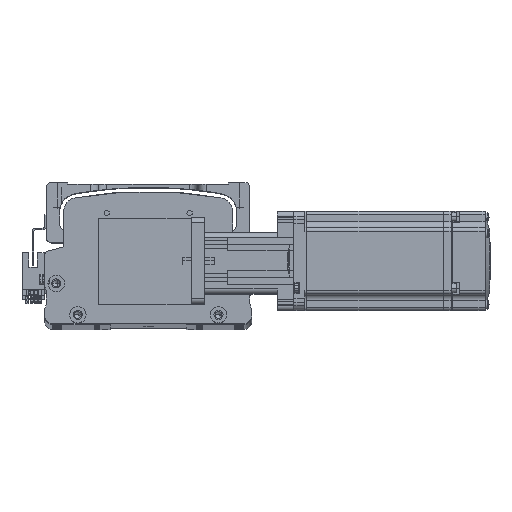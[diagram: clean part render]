
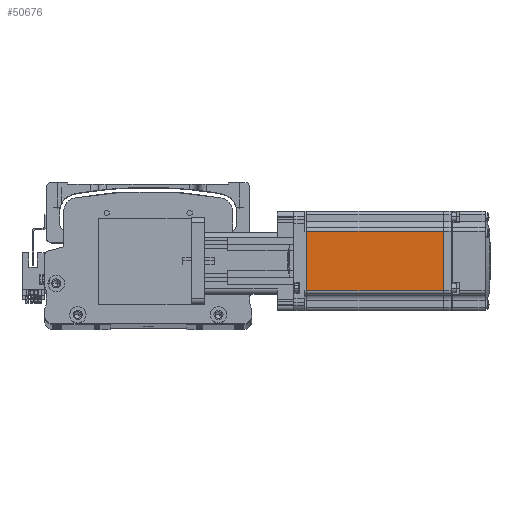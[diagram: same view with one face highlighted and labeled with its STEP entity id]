
A CAD part, top view. The second image highlights one B-rep face of the part: STEP entity #50676.
In plain terms, the highlighted planar face has unit normal (0, 0, 1) as drawn and (0, -1, 0) by its records, which use the part's own axes.
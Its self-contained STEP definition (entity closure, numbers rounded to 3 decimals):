
#1174 = LINE ( 'NONE', #43734, #25114 ) ;
#1272 = ORIENTED_EDGE ( 'NONE', *, *, #45522, .T. ) ;
#5736 = PLANE ( 'NONE',  #51374 ) ;
#8005 = VERTEX_POINT ( 'NONE', #14065 ) ;
#8956 = VECTOR ( 'NONE', #19528, 1000. ) ;
#11220 = CARTESIAN_POINT ( 'NONE',  ( -90.45, -30., 18. ) ) ;
#11306 = DIRECTION ( 'NONE',  ( 0., -1., 0. ) ) ;
#12507 = EDGE_CURVE ( 'NONE', #8005, #48100, #63149, .T. ) ;
#14065 = CARTESIAN_POINT ( 'NONE',  ( -7.75, -30., -18. ) ) ;
#17347 = CARTESIAN_POINT ( 'NONE',  ( -7.75, -30., 18. ) ) ;
#19528 = DIRECTION ( 'NONE',  ( -1., 0., 0. ) ) ;
#21738 = LINE ( 'NONE', #23532, #35368 ) ;
#23532 = CARTESIAN_POINT ( 'NONE',  ( -6.5, -30., 18. ) ) ;
#25114 = VECTOR ( 'NONE', #49075, 1000. ) ;
#26832 = EDGE_CURVE ( 'NONE', #52424, #8005, #1174, .T. ) ;
#34449 = ORIENTED_EDGE ( 'NONE', *, *, #26832, .F. ) ;
#35368 = VECTOR ( 'NONE', #64583, 1000. ) ;
#41682 = LINE ( 'NONE', #42379, #53685 ) ;
#41788 = CARTESIAN_POINT ( 'NONE',  ( -6.5, -30., -25. ) ) ;
#42189 = EDGE_CURVE ( 'NONE', #46408, #48100, #41682, .T. ) ;
#42379 = CARTESIAN_POINT ( 'NONE',  ( -90.45, -30., 0. ) ) ;
#43734 = CARTESIAN_POINT ( 'NONE',  ( -7.75, -30., 0. ) ) ;
#43809 = ORIENTED_EDGE ( 'NONE', *, *, #42189, .T. ) ;
#45522 = EDGE_CURVE ( 'NONE', #52424, #46408, #21738, .T. ) ;
#46408 = VERTEX_POINT ( 'NONE', #11220 ) ;
#46953 = DIRECTION ( 'NONE',  ( 0., 0., -1. ) ) ;
#47534 = DIRECTION ( 'NONE',  ( 0., 0., -1. ) ) ;
#48100 = VERTEX_POINT ( 'NONE', #61013 ) ;
#49023 = EDGE_LOOP ( 'NONE', ( #34449, #1272, #43809, #59000 ) ) ;
#49075 = DIRECTION ( 'NONE',  ( 0., 0., -1. ) ) ;
#50676 = ADVANCED_FACE ( 'NONE', ( #51445 ), #5736, .T. ) ;
#51374 = AXIS2_PLACEMENT_3D ( 'NONE', #41788, #11306, #46953 ) ;
#51445 = FACE_OUTER_BOUND ( 'NONE', #49023, .T. ) ;
#52424 = VERTEX_POINT ( 'NONE', #17347 ) ;
#53685 = VECTOR ( 'NONE', #47534, 1000. ) ;
#55215 = CARTESIAN_POINT ( 'NONE',  ( -6.5, -30., -18. ) ) ;
#59000 = ORIENTED_EDGE ( 'NONE', *, *, #12507, .F. ) ;
#61013 = CARTESIAN_POINT ( 'NONE',  ( -90.45, -30., -18. ) ) ;
#63149 = LINE ( 'NONE', #55215, #8956 ) ;
#64583 = DIRECTION ( 'NONE',  ( -1., 0., 0. ) ) ;
